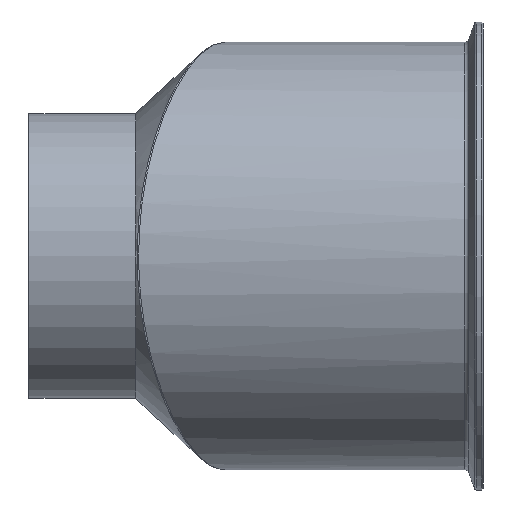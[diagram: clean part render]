
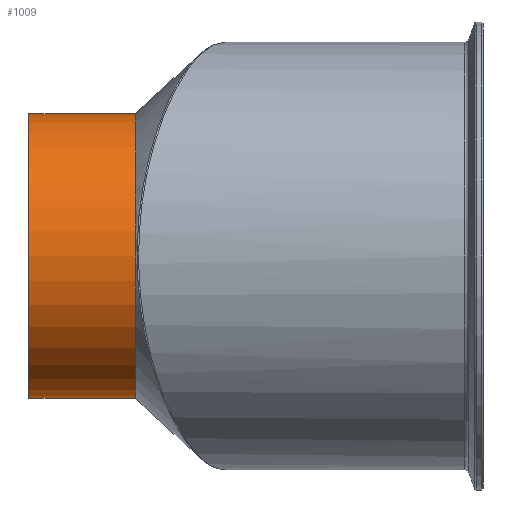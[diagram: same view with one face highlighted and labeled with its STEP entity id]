
A CAD part, front view. The second image highlights one B-rep face of the part: STEP entity #1009.
In plain terms, the highlighted cylindrical face has radius 50.8 mm (diameter 101.6 mm), a partial arc.
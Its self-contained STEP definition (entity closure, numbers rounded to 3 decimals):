
#73 = EDGE_CURVE ( 'NONE', #1874, #2560, #773, .T. ) ;
#225 = DIRECTION ( 'NONE',  ( 0., 0., -1. ) ) ;
#462 = DIRECTION ( 'NONE',  ( 1., 0., 0. ) ) ;
#504 = CIRCLE ( 'NONE', #545, 50.8 ) ;
#545 = AXIS2_PLACEMENT_3D ( 'NONE', #1953, #606, #897 ) ;
#581 = CARTESIAN_POINT ( 'NONE',  ( -142.875, -24.74, 50.8 ) ) ;
#606 = DIRECTION ( 'NONE',  ( 1., 0., 0. ) ) ;
#658 = CIRCLE ( 'NONE', #2160, 50.8 ) ;
#744 = ORIENTED_EDGE ( 'NONE', *, *, #2079, .T. ) ;
#773 = LINE ( 'NONE', #1690, #2479 ) ;
#811 = ORIENTED_EDGE ( 'NONE', *, *, #1484, .T. ) ;
#897 = DIRECTION ( 'NONE',  ( 0., 0., -1. ) ) ;
#978 = CARTESIAN_POINT ( 'NONE',  ( -95.224, -24.74, 0. ) ) ;
#1007 = CARTESIAN_POINT ( 'NONE',  ( -142.875, -24.74, -50.8 ) ) ;
#1009 = ADVANCED_FACE ( 'NONE', ( #2013 ), #1027, .T. ) ;
#1027 = CYLINDRICAL_SURFACE ( 'NONE', #2137, 50.8 ) ;
#1215 = ORIENTED_EDGE ( 'NONE', *, *, #73, .F. ) ;
#1268 = CARTESIAN_POINT ( 'NONE',  ( -104.775, -24.74, 50.8 ) ) ;
#1396 = VERTEX_POINT ( 'NONE', #1007 ) ;
#1472 = DIRECTION ( 'NONE',  ( 1., 0., 0. ) ) ;
#1484 = EDGE_CURVE ( 'NONE', #1396, #1576, #2029, .T. ) ;
#1505 = ORIENTED_EDGE ( 'NONE', *, *, #2563, .F. ) ;
#1535 = DIRECTION ( 'NONE',  ( 0., 0., -1. ) ) ;
#1576 = VERTEX_POINT ( 'NONE', #2522 ) ;
#1690 = CARTESIAN_POINT ( 'NONE',  ( -95.224, -24.74, 50.8 ) ) ;
#1728 = CARTESIAN_POINT ( 'NONE',  ( -104.775, -24.74, 0. ) ) ;
#1750 = DIRECTION ( 'NONE',  ( 1., 0., 0. ) ) ;
#1873 = CARTESIAN_POINT ( 'NONE',  ( -95.224, -24.74, -50.8 ) ) ;
#1874 = VERTEX_POINT ( 'NONE', #581 ) ;
#1953 = CARTESIAN_POINT ( 'NONE',  ( -142.875, -24.74, 0. ) ) ;
#1985 = EDGE_LOOP ( 'NONE', ( #1215, #744, #811, #1505 ) ) ;
#2013 = FACE_OUTER_BOUND ( 'NONE', #1985, .T. ) ;
#2029 = LINE ( 'NONE', #1873, #2213 ) ;
#2079 = EDGE_CURVE ( 'NONE', #1874, #1396, #504, .T. ) ;
#2137 = AXIS2_PLACEMENT_3D ( 'NONE', #978, #462, #225 ) ;
#2160 = AXIS2_PLACEMENT_3D ( 'NONE', #1728, #1750, #1535 ) ;
#2213 = VECTOR ( 'NONE', #2538, 1000. ) ;
#2479 = VECTOR ( 'NONE', #1472, 1000. ) ;
#2522 = CARTESIAN_POINT ( 'NONE',  ( -104.775, -24.74, -50.8 ) ) ;
#2538 = DIRECTION ( 'NONE',  ( 1., 0., 0. ) ) ;
#2560 = VERTEX_POINT ( 'NONE', #1268 ) ;
#2563 = EDGE_CURVE ( 'NONE', #2560, #1576, #658, .T. ) ;
